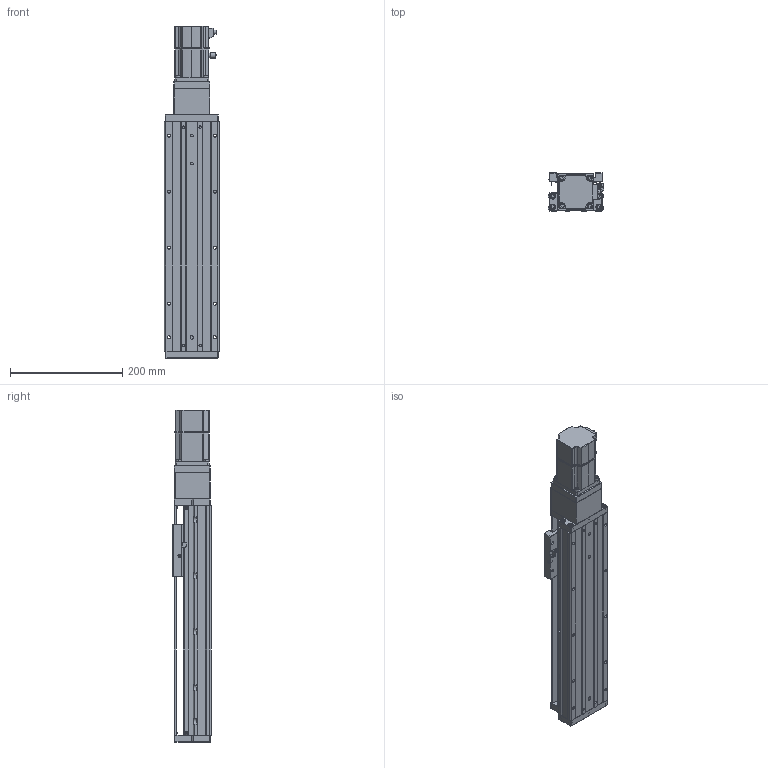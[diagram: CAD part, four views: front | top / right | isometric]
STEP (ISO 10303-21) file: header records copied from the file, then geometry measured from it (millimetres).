
FILE_DESCRIPTION (( 'STEP AP203' ), '1' );
FILE_NAME ('KTHA100-250-BC-M20-C4L.step', '2022-04-26T01:43:48', ( '微软用户' ), ( '微软中国' ), 'SwSTEP 2.0', 'SolidWorks 2020', '' );
FILE_SCHEMA (( 'CONFIG_CONTROL_DESIGN' ));
Length unit declared in the file: millimetre
Products named in the file (18): _X2_4E0983F1_X0_200W_1; KTHA100-001_410; CTHA60-021; CTHA86-013; KTHA100-002; GBT77-2000 M3×3; CTHA86-027; KTHA100-004; GBT 70.1-M3℅6; CTHA86-006-1_CTHA86-006-2; KTHA100-005; GBT70.1 M5℅16; KTHA100-250-BC-M20-C4L; GB¨uT 70.2-M3¡Á5_M3¡Á6; CTHA60-016; EE_SX911P_R; GBT 70.3-M3℅6; CTHA60-017
Assembly tree (56 placements, depth 2):
  KTHA100-250-BC-M20-C4L
    KTHA100-001_410
    KTHA100-002
    KTHA100-004
    KTHA100-005
    GB¨uT 70.2-M3¡Á5_M3¡Á6  x6
    EE_SX911P_R  x3
    CTHA60-017  x3
    CTHA60-021  x2
    GBT77-2000 M3×3  x6
    GBT 70.1-M3℅6  x6
    GBT70.1 M5℅16  x14
    CTHA60-016  x2
    GBT 70.3-M3℅6  x6
    _X2_4E0983F1_X0_200W_1
    CTHA86-013
    CTHA86-027
    CTHA86-006-1_CTHA86-006-2
Bounding box: 98.82 x 68 x 592.5 mm (x, y, z)
Volume: 2278294.4 mm3; surface area: 395105.7 mm2
Topology: 59 solids, 59 shells, 2347 faces, 5576 edges, 3436 vertices
Faces by surface type: plane 1191, cylinder 643, cone 324, torus 104, bspline 69, sphere 16
Entity records: 39660 total; most frequent: CARTESIAN_POINT 7639, DIRECTION 6219, ORIENTED_EDGE 5920, EDGE_CURVE 2960, AXIS2_PLACEMENT_3D 2188, VERTEX_POINT 1854, LINE 1843, VECTOR 1843
